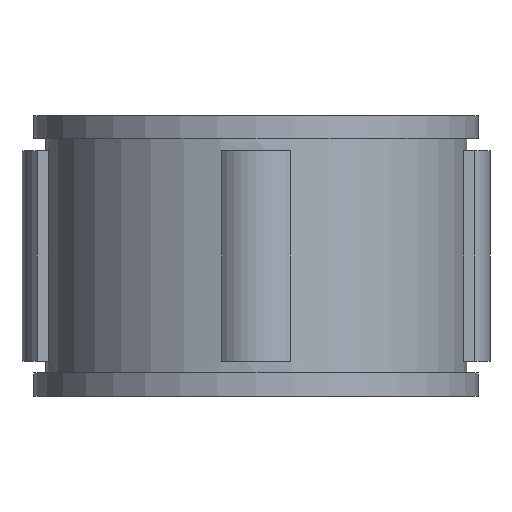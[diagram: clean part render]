
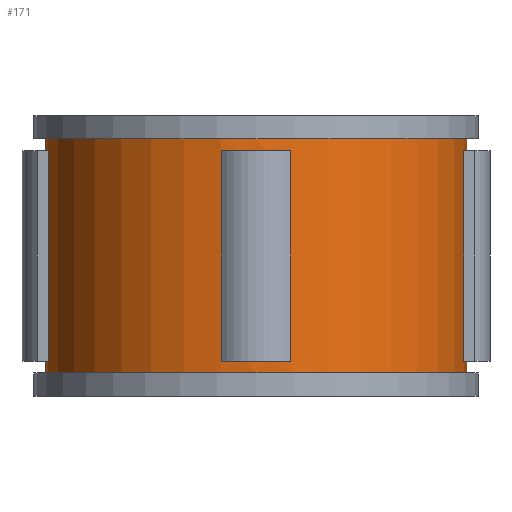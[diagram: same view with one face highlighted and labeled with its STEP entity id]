
A CAD part, front view. The second image highlights one B-rep face of the part: STEP entity #171.
In plain terms, the highlighted cylindrical face has radius 9 mm (diameter 18 mm), a full revolution.
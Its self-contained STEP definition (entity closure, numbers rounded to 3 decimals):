
#171=ADVANCED_FACE('',(#359,#360,#361,#362,#363,#364),#219,.T.);
#219=CYLINDRICAL_SURFACE('',#882,9.);
#231=LINE('',#1207,#295);
#232=LINE('',#1212,#296);
#233=LINE('',#1215,#297);
#234=LINE('',#1220,#298);
#235=LINE('',#1223,#299);
#236=LINE('',#1228,#300);
#237=LINE('',#1234,#301);
#238=LINE('',#1238,#302);
#295=VECTOR('',#966,1.);
#296=VECTOR('',#969,1.);
#297=VECTOR('',#972,1.);
#298=VECTOR('',#975,1.);
#299=VECTOR('',#978,1.);
#300=VECTOR('',#981,1.);
#301=VECTOR('',#986,1.);
#302=VECTOR('',#989,1.);
#359=FACE_BOUND('',#383,.T.);
#360=FACE_BOUND('',#384,.T.);
#361=FACE_BOUND('',#385,.T.);
#362=FACE_BOUND('',#386,.T.);
#363=FACE_BOUND('',#387,.T.);
#364=FACE_BOUND('',#388,.T.);
#383=EDGE_LOOP('',(#447));
#384=EDGE_LOOP('',(#448));
#385=EDGE_LOOP('',(#449,#450,#451,#452));
#386=EDGE_LOOP('',(#453,#454,#455,#456));
#387=EDGE_LOOP('',(#457,#458,#459,#460));
#388=EDGE_LOOP('',(#461,#462,#463,#464));
#447=ORIENTED_EDGE('',*,*,#727,.F.);
#448=ORIENTED_EDGE('',*,*,#728,.T.);
#449=ORIENTED_EDGE('',*,*,#729,.F.);
#450=ORIENTED_EDGE('',*,*,#730,.T.);
#451=ORIENTED_EDGE('',*,*,#731,.F.);
#452=ORIENTED_EDGE('',*,*,#732,.F.);
#453=ORIENTED_EDGE('',*,*,#733,.F.);
#454=ORIENTED_EDGE('',*,*,#734,.T.);
#455=ORIENTED_EDGE('',*,*,#735,.F.);
#456=ORIENTED_EDGE('',*,*,#736,.F.);
#457=ORIENTED_EDGE('',*,*,#737,.F.);
#458=ORIENTED_EDGE('',*,*,#738,.T.);
#459=ORIENTED_EDGE('',*,*,#739,.F.);
#460=ORIENTED_EDGE('',*,*,#740,.F.);
#461=ORIENTED_EDGE('',*,*,#741,.F.);
#462=ORIENTED_EDGE('',*,*,#742,.T.);
#463=ORIENTED_EDGE('',*,*,#743,.T.);
#464=ORIENTED_EDGE('',*,*,#744,.T.);
#655=VERTEX_POINT('',#1204);
#656=VERTEX_POINT('',#1206);
#657=VERTEX_POINT('',#1208);
#658=VERTEX_POINT('',#1209);
#659=VERTEX_POINT('',#1211);
#660=VERTEX_POINT('',#1213);
#661=VERTEX_POINT('',#1216);
#662=VERTEX_POINT('',#1217);
#663=VERTEX_POINT('',#1219);
#664=VERTEX_POINT('',#1221);
#665=VERTEX_POINT('',#1224);
#666=VERTEX_POINT('',#1225);
#667=VERTEX_POINT('',#1227);
#668=VERTEX_POINT('',#1229);
#669=VERTEX_POINT('',#1232);
#670=VERTEX_POINT('',#1233);
#671=VERTEX_POINT('',#1235);
#672=VERTEX_POINT('',#1237);
#727=EDGE_CURVE('',#655,#655,#831,.T.);
#728=EDGE_CURVE('',#656,#656,#832,.T.);
#729=EDGE_CURVE('',#657,#658,#231,.T.);
#730=EDGE_CURVE('',#657,#659,#833,.T.);
#731=EDGE_CURVE('',#660,#659,#232,.T.);
#732=EDGE_CURVE('',#658,#660,#834,.T.);
#733=EDGE_CURVE('',#661,#662,#233,.T.);
#734=EDGE_CURVE('',#661,#663,#835,.T.);
#735=EDGE_CURVE('',#664,#663,#234,.T.);
#736=EDGE_CURVE('',#662,#664,#836,.T.);
#737=EDGE_CURVE('',#665,#666,#235,.T.);
#738=EDGE_CURVE('',#665,#667,#837,.T.);
#739=EDGE_CURVE('',#668,#667,#236,.T.);
#740=EDGE_CURVE('',#666,#668,#838,.T.);
#741=EDGE_CURVE('',#669,#670,#839,.T.);
#742=EDGE_CURVE('',#669,#671,#237,.T.);
#743=EDGE_CURVE('',#671,#672,#840,.T.);
#744=EDGE_CURVE('',#672,#670,#238,.T.);
#831=CIRCLE('',#872,9.);
#832=CIRCLE('',#873,9.);
#833=CIRCLE('',#874,9.);
#834=CIRCLE('',#875,9.);
#835=CIRCLE('',#876,9.);
#836=CIRCLE('',#877,9.);
#837=CIRCLE('',#878,9.);
#838=CIRCLE('',#879,9.);
#839=CIRCLE('',#880,9.);
#840=CIRCLE('',#881,9.);
#872=AXIS2_PLACEMENT_3D('',#1203,#962,#963);
#873=AXIS2_PLACEMENT_3D('',#1205,#964,#965);
#874=AXIS2_PLACEMENT_3D('',#1210,#967,#968);
#875=AXIS2_PLACEMENT_3D('',#1214,#970,#971);
#876=AXIS2_PLACEMENT_3D('',#1218,#973,#974);
#877=AXIS2_PLACEMENT_3D('',#1222,#976,#977);
#878=AXIS2_PLACEMENT_3D('',#1226,#979,#980);
#879=AXIS2_PLACEMENT_3D('',#1230,#982,#983);
#880=AXIS2_PLACEMENT_3D('',#1231,#984,#985);
#881=AXIS2_PLACEMENT_3D('',#1236,#987,#988);
#882=AXIS2_PLACEMENT_3D('',#1239,#990,#991);
#962=DIRECTION('',(0.,0.,1.));
#963=DIRECTION('',(1.,0.,0.));
#964=DIRECTION('',(0.,0.,1.));
#965=DIRECTION('',(1.,0.,0.));
#966=DIRECTION('',(0.,0.,-1.));
#967=DIRECTION('',(0.,0.,1.));
#968=DIRECTION('',(1.,0.,0.));
#969=DIRECTION('',(0.,0.,1.));
#970=DIRECTION('',(0.,0.,1.));
#971=DIRECTION('',(1.,0.,0.));
#972=DIRECTION('',(0.,0.,-1.));
#973=DIRECTION('',(0.,0.,1.));
#974=DIRECTION('',(1.,0.,0.));
#975=DIRECTION('',(0.,0.,1.));
#976=DIRECTION('',(0.,0.,1.));
#977=DIRECTION('',(1.,0.,0.));
#978=DIRECTION('',(0.,0.,-1.));
#979=DIRECTION('',(0.,0.,1.));
#980=DIRECTION('',(1.,0.,0.));
#981=DIRECTION('',(0.,0.,1.));
#982=DIRECTION('',(0.,0.,1.));
#983=DIRECTION('',(1.,0.,0.));
#984=DIRECTION('',(0.,0.,-1.));
#985=DIRECTION('',(-1.,0.,0.));
#986=DIRECTION('',(0.,0.,-1.));
#987=DIRECTION('',(0.,0.,-1.));
#988=DIRECTION('',(-1.,0.,0.));
#989=DIRECTION('',(0.,0.,1.));
#990=DIRECTION('',(0.,0.,-1.));
#991=DIRECTION('',(-1.,0.,0.));
#1203=CARTESIAN_POINT('',(0.,0.,11.));
#1204=CARTESIAN_POINT('',(9.,0.,11.));
#1205=CARTESIAN_POINT('',(0.,0.,1.));
#1206=CARTESIAN_POINT('',(9.,0.,1.));
#1207=CARTESIAN_POINT('',(8.879,-1.471,12.));
#1208=CARTESIAN_POINT('',(8.879,-1.471,10.5));
#1209=CARTESIAN_POINT('',(8.879,-1.471,1.5));
#1210=CARTESIAN_POINT('',(0.,0.,10.5));
#1211=CARTESIAN_POINT('',(8.879,1.471,10.5));
#1212=CARTESIAN_POINT('',(8.879,1.471,12.));
#1213=CARTESIAN_POINT('',(8.879,1.471,1.5));
#1214=CARTESIAN_POINT('',(0.,0.,1.5));
#1215=CARTESIAN_POINT('',(1.471,8.879,12.));
#1216=CARTESIAN_POINT('',(1.471,8.879,10.5));
#1217=CARTESIAN_POINT('',(1.471,8.879,1.5));
#1218=CARTESIAN_POINT('',(0.,0.,10.5));
#1219=CARTESIAN_POINT('',(-1.471,8.879,10.5));
#1220=CARTESIAN_POINT('',(-1.471,8.879,12.));
#1221=CARTESIAN_POINT('',(-1.471,8.879,1.5));
#1222=CARTESIAN_POINT('',(0.,0.,1.5));
#1223=CARTESIAN_POINT('',(-8.879,1.471,12.));
#1224=CARTESIAN_POINT('',(-8.879,1.471,10.5));
#1225=CARTESIAN_POINT('',(-8.879,1.471,1.5));
#1226=CARTESIAN_POINT('',(0.,0.,10.5));
#1227=CARTESIAN_POINT('',(-8.879,-1.471,10.5));
#1228=CARTESIAN_POINT('',(-8.879,-1.471,12.));
#1229=CARTESIAN_POINT('',(-8.879,-1.471,1.5));
#1230=CARTESIAN_POINT('',(0.,0.,1.5));
#1231=CARTESIAN_POINT('',(0.,0.,10.5));
#1232=CARTESIAN_POINT('',(1.471,-8.879,10.5));
#1233=CARTESIAN_POINT('',(-1.471,-8.879,10.5));
#1234=CARTESIAN_POINT('',(1.471,-8.879,12.));
#1235=CARTESIAN_POINT('',(1.471,-8.879,1.5));
#1236=CARTESIAN_POINT('',(0.,0.,1.5));
#1237=CARTESIAN_POINT('',(-1.471,-8.879,1.5));
#1238=CARTESIAN_POINT('',(-1.471,-8.879,12.));
#1239=CARTESIAN_POINT('',(0.,0.,12.));
